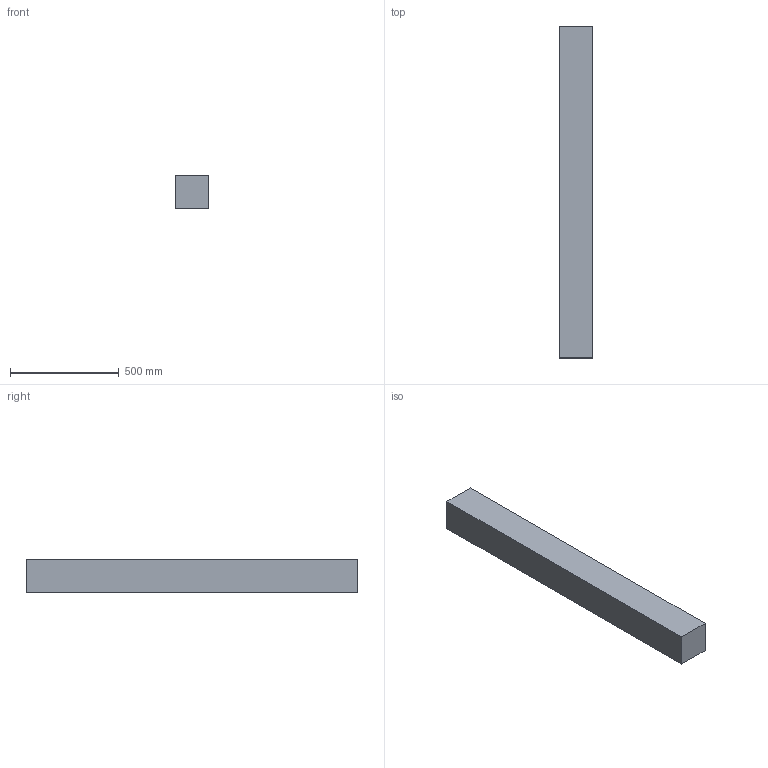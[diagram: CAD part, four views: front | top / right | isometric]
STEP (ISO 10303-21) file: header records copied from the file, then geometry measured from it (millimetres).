
FILE_DESCRIPTION(/* description */ (''),/* implementation_level */ '2;1');
FILE_NAME(/* name */ '6x6x60',/* time_stamp */ '2024-09-20T11:47:07-05:00',/* author */ (''),/* organization */ (''),/* preprocessor_version */ 'ST-DEVELOPER v19.2',/* originating_system */ 'Rhino 8.5',/* authorisation */ '');
FILE_SCHEMA (('CONFIG_CONTROL_DESIGN'));
Length unit declared in the file: inch
Products named in the file (1): Document
Bounding box: 152.4 x 1524 x 152.4 mm (x, y, z)
Volume: 35396058.2 mm3; surface area: 975481.9 mm2
Topology: 1 solids, 1 shells, 6 faces, 12 edges, 8 vertices
Faces by surface type: plane 6
Entity records: 226 total; most frequent: CARTESIAN_POINT 40, ORIENTED_EDGE 24, EDGE_CURVE 12, B_SPLINE_CURVE_WITH_KNOTS 12, DIRECTION 10, VERTEX_POINT 8, AXIS2_PLACEMENT_3D 8, ORGANIZATION 7
